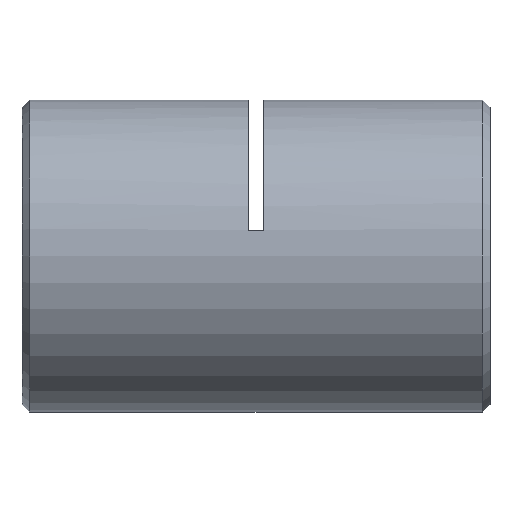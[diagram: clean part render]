
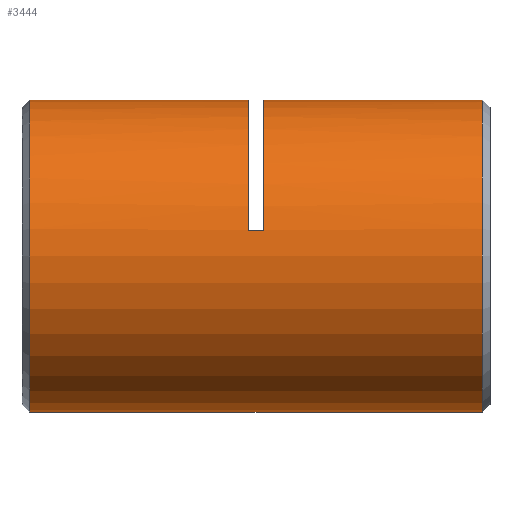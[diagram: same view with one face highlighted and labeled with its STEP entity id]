
A CAD part, left-side view. The second image highlights one B-rep face of the part: STEP entity #3444.
In plain terms, the highlighted cylindrical face has radius 10 mm (diameter 20 mm), a partial arc.
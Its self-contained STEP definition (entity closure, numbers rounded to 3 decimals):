
#302 = CARTESIAN_POINT ( 'NONE',  ( 0., 0., -10. ) ) ;
#326 = CIRCLE ( 'NONE', #2053, 10. ) ;
#328 = ORIENTED_EDGE ( 'NONE', *, *, #883, .T. ) ;
#563 = LINE ( 'NONE', #302, #1888 ) ;
#827 = DIRECTION ( 'NONE',  ( 0., 0., 1. ) ) ;
#860 = EDGE_CURVE ( 'NONE', #3625, #5627, #326, .T. ) ;
#883 = EDGE_CURVE ( 'NONE', #5737, #2348, #1664, .T. ) ;
#915 = CIRCLE ( 'NONE', #5492, 10. ) ;
#1060 = ORIENTED_EDGE ( 'NONE', *, *, #5575, .T. ) ;
#1066 = VECTOR ( 'NONE', #1558, 1000. ) ;
#1142 = EDGE_CURVE ( 'NONE', #3602, #2348, #915, .T. ) ;
#1344 = CYLINDRICAL_SURFACE ( 'NONE', #2025, 10. ) ;
#1558 = DIRECTION ( 'NONE',  ( 0., 1., 0. ) ) ;
#1609 = DIRECTION ( 'NONE',  ( 0., 0., -1. ) ) ;
#1620 = VERTEX_POINT ( 'NONE', #3658 ) ;
#1664 = LINE ( 'NONE', #3591, #2816 ) ;
#1870 = DIRECTION ( 'NONE',  ( 0., 0., 1. ) ) ;
#1888 = VECTOR ( 'NONE', #2583, 1000. ) ;
#1955 = CARTESIAN_POINT ( 'NONE',  ( -9.86, 15.75, 1.667 ) ) ;
#1987 = ORIENTED_EDGE ( 'NONE', *, *, #1142, .F. ) ;
#2025 = AXIS2_PLACEMENT_3D ( 'NONE', #2542, #3147, #2677 ) ;
#2053 = AXIS2_PLACEMENT_3D ( 'NONE', #2157, #3073, #1870 ) ;
#2107 = CIRCLE ( 'NONE', #4824, 10. ) ;
#2157 = CARTESIAN_POINT ( 'NONE',  ( 0., 15.75, 0. ) ) ;
#2170 = CARTESIAN_POINT ( 'NONE',  ( 0., 0.75, 10. ) ) ;
#2227 = CARTESIAN_POINT ( 'NONE',  ( 0., 0.75, 0. ) ) ;
#2348 = VERTEX_POINT ( 'NONE', #4335 ) ;
#2434 = CARTESIAN_POINT ( 'NONE',  ( 0., 29.75, -10. ) ) ;
#2542 = CARTESIAN_POINT ( 'NONE',  ( 0., 0., 0. ) ) ;
#2583 = DIRECTION ( 'NONE',  ( 0., 1., 0. ) ) ;
#2677 = DIRECTION ( 'NONE',  ( 0., 0., 1. ) ) ;
#2684 = VERTEX_POINT ( 'NONE', #2434 ) ;
#2757 = CARTESIAN_POINT ( 'NONE',  ( 0., 15.75, 10. ) ) ;
#2807 = EDGE_CURVE ( 'NONE', #3963, #2684, #3739, .T. ) ;
#2816 = VECTOR ( 'NONE', #4048, 1000. ) ;
#2942 = CARTESIAN_POINT ( 'NONE',  ( -9.86, 15.25, 1.667 ) ) ;
#3052 = EDGE_CURVE ( 'NONE', #3602, #3625, #3069, .T. ) ;
#3069 = LINE ( 'NONE', #2942, #3266 ) ;
#3073 = DIRECTION ( 'NONE',  ( 0., 1., 0. ) ) ;
#3147 = DIRECTION ( 'NONE',  ( 0., 1., 0. ) ) ;
#3196 = CARTESIAN_POINT ( 'NONE',  ( -9.86, 14.75, 1.667 ) ) ;
#3266 = VECTOR ( 'NONE', #3500, 1000. ) ;
#3361 = CARTESIAN_POINT ( 'NONE',  ( 0., 0., 10. ) ) ;
#3444 = ADVANCED_FACE ( 'NONE', ( #5054 ), #1344, .T. ) ;
#3500 = DIRECTION ( 'NONE',  ( 0., 1., 0. ) ) ;
#3513 = DIRECTION ( 'NONE',  ( 0., 0., 1. ) ) ;
#3525 = DIRECTION ( 'NONE',  ( 0., 1., 0. ) ) ;
#3591 = CARTESIAN_POINT ( 'NONE',  ( 0., 0., 10. ) ) ;
#3602 = VERTEX_POINT ( 'NONE', #3196 ) ;
#3625 = VERTEX_POINT ( 'NONE', #1955 ) ;
#3630 = AXIS2_PLACEMENT_3D ( 'NONE', #5651, #4279, #1609 ) ;
#3658 = CARTESIAN_POINT ( 'NONE',  ( 0., 0.75, -10. ) ) ;
#3739 = CIRCLE ( 'NONE', #3630, 10. ) ;
#3961 = CARTESIAN_POINT ( 'NONE',  ( 0., 29.75, 10. ) ) ;
#3962 = CARTESIAN_POINT ( 'NONE',  ( 0., 14.75, 0. ) ) ;
#3963 = VERTEX_POINT ( 'NONE', #3961 ) ;
#4048 = DIRECTION ( 'NONE',  ( 0., 1., 0. ) ) ;
#4279 = DIRECTION ( 'NONE',  ( 0., -1., 0. ) ) ;
#4335 = CARTESIAN_POINT ( 'NONE',  ( 0., 14.75, 10. ) ) ;
#4446 = ORIENTED_EDGE ( 'NONE', *, *, #3052, .T. ) ;
#4548 = LINE ( 'NONE', #3361, #1066 ) ;
#4815 = EDGE_CURVE ( 'NONE', #5627, #3963, #4548, .T. ) ;
#4824 = AXIS2_PLACEMENT_3D ( 'NONE', #2227, #5313, #3513 ) ;
#4838 = EDGE_CURVE ( 'NONE', #1620, #2684, #563, .T. ) ;
#5005 = EDGE_LOOP ( 'NONE', ( #5498, #1060, #328, #1987, #4446, #5573, #5028, #5386 ) ) ;
#5028 = ORIENTED_EDGE ( 'NONE', *, *, #4815, .T. ) ;
#5054 = FACE_OUTER_BOUND ( 'NONE', #5005, .T. ) ;
#5313 = DIRECTION ( 'NONE',  ( 0., 1., 0. ) ) ;
#5386 = ORIENTED_EDGE ( 'NONE', *, *, #2807, .T. ) ;
#5492 = AXIS2_PLACEMENT_3D ( 'NONE', #3962, #3525, #827 ) ;
#5498 = ORIENTED_EDGE ( 'NONE', *, *, #4838, .F. ) ;
#5573 = ORIENTED_EDGE ( 'NONE', *, *, #860, .T. ) ;
#5575 = EDGE_CURVE ( 'NONE', #1620, #5737, #2107, .T. ) ;
#5627 = VERTEX_POINT ( 'NONE', #2757 ) ;
#5651 = CARTESIAN_POINT ( 'NONE',  ( 0., 29.75, 0. ) ) ;
#5737 = VERTEX_POINT ( 'NONE', #2170 ) ;
